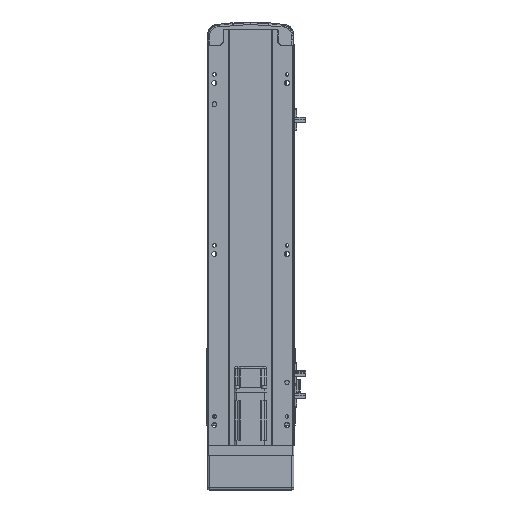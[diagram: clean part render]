
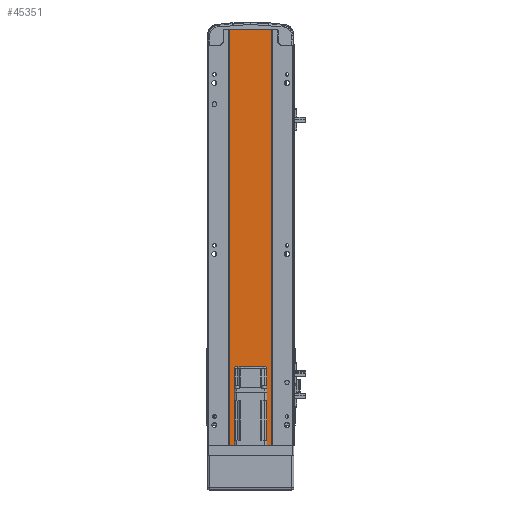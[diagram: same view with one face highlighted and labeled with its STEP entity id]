
A CAD part, front view. The second image highlights one B-rep face of the part: STEP entity #45351.
In plain terms, the highlighted planar face has unit normal (0, -1, 0).
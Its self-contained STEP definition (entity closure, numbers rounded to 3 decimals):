
#1409 = LINE ( 'NONE', #43109, #20003 ) ;
#1524 = VERTEX_POINT ( 'NONE', #31824 ) ;
#2511 = DIRECTION ( 'NONE',  ( 0., 0., 1. ) ) ;
#13117 = CARTESIAN_POINT ( 'NONE',  ( 24.5, 2., 487. ) ) ;
#14377 = VECTOR ( 'NONE', #20073, 1000. ) ;
#15174 = EDGE_CURVE ( 'NONE', #52843, #40820, #48949, .T. ) ;
#15307 = AXIS2_PLACEMENT_3D ( 'NONE', #15389, #50790, #2511 ) ;
#15389 = CARTESIAN_POINT ( 'NONE',  ( 0., 2., 487. ) ) ;
#16823 = DIRECTION ( 'NONE',  ( 0., 0., -1. ) ) ;
#18847 = VECTOR ( 'NONE', #33987, 1000. ) ;
#20003 = VECTOR ( 'NONE', #47515, 1000. ) ;
#20073 = DIRECTION ( 'NONE',  ( 1., 0., 0. ) ) ;
#21413 = CARTESIAN_POINT ( 'NONE',  ( 24.5, 2., 0. ) ) ;
#23178 = ORIENTED_EDGE ( 'NONE', *, *, #44957, .F. ) ;
#25565 = VECTOR ( 'NONE', #16823, 1000. ) ;
#25918 = CARTESIAN_POINT ( 'NONE',  ( 0., 2., 0. ) ) ;
#26121 = LINE ( 'NONE', #45842, #14377 ) ;
#26645 = ORIENTED_EDGE ( 'NONE', *, *, #55162, .T. ) ;
#27049 = ORIENTED_EDGE ( 'NONE', *, *, #40427, .T. ) ;
#29223 = ORIENTED_EDGE ( 'NONE', *, *, #15174, .F. ) ;
#30564 = LINE ( 'NONE', #25918, #18847 ) ;
#31824 = CARTESIAN_POINT ( 'NONE',  ( -24.5, 2., 487. ) ) ;
#33968 = CARTESIAN_POINT ( 'NONE',  ( 24.5, 2., 487. ) ) ;
#33987 = DIRECTION ( 'NONE',  ( 1., 0., 0. ) ) ;
#35713 = FACE_OUTER_BOUND ( 'NONE', #53721, .T. ) ;
#37787 = VERTEX_POINT ( 'NONE', #47530 ) ;
#40427 = EDGE_CURVE ( 'NONE', #37787, #40820, #30564, .T. ) ;
#40820 = VERTEX_POINT ( 'NONE', #21413 ) ;
#41776 = PLANE ( 'NONE',  #15307 ) ;
#43109 = CARTESIAN_POINT ( 'NONE',  ( -24.5, 2., 487. ) ) ;
#44957 = EDGE_CURVE ( 'NONE', #1524, #52843, #26121, .T. ) ;
#45351 = ADVANCED_FACE ( 'NONE', ( #35713 ), #41776, .F. ) ;
#45842 = CARTESIAN_POINT ( 'NONE',  ( -24.5, 2., 487. ) ) ;
#47515 = DIRECTION ( 'NONE',  ( 0., 0., -1. ) ) ;
#47530 = CARTESIAN_POINT ( 'NONE',  ( -24.5, 2., 0. ) ) ;
#48949 = LINE ( 'NONE', #33968, #25565 ) ;
#50790 = DIRECTION ( 'NONE',  ( 0., 1., 0. ) ) ;
#52843 = VERTEX_POINT ( 'NONE', #13117 ) ;
#53721 = EDGE_LOOP ( 'NONE', ( #27049, #29223, #23178, #26645 ) ) ;
#55162 = EDGE_CURVE ( 'NONE', #1524, #37787, #1409, .T. ) ;
